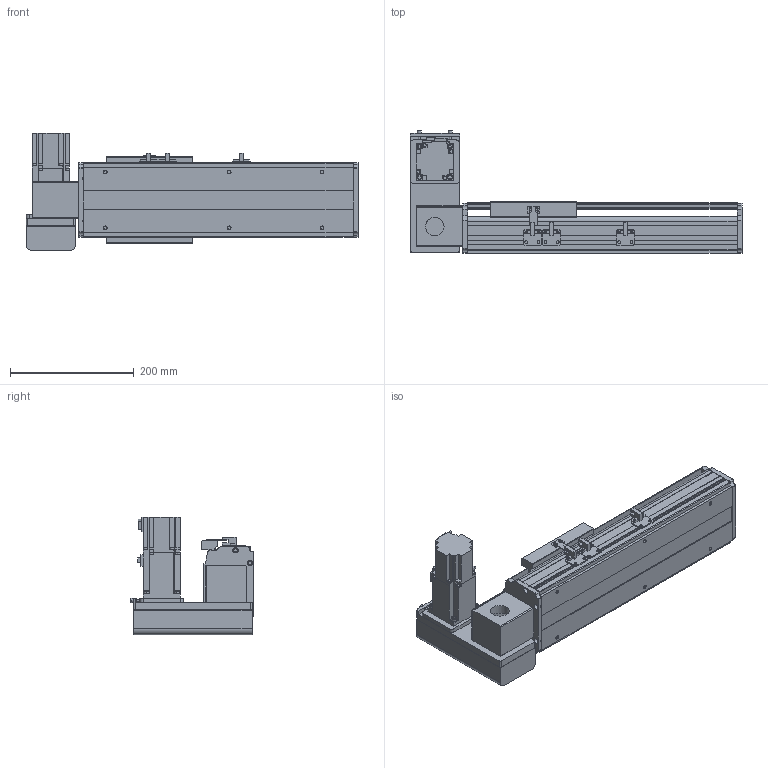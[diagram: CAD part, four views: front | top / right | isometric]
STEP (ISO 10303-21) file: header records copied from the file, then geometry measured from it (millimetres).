
FILE_DESCRIPTION(/* description */ ('STEP AP214'),/* implementation_level */ '2;1');
FILE_NAME(/* name */ 'PBS120-P40-S150-LU-T40-C1-N(0)',/* time_stamp */ '2022-06-06T02:30:02+02:00',/* author */ ('License CC BY-ND 4.0'),/* organization */ ('CADENAS'),/* preprocessor_version */ 'ST-DEVELOPER v18.102',/* originating_system */ 'PARTsolutions',/* authorisation */ ' ');
FILE_SCHEMA (('AUTOMOTIVE_DESIGN {1 0 10303 214 3 1 1}'));
Length unit declared in the file: millimetre
Products named in the file (7): PBS120-P40-S150-LU-T40-C1-N(0); PBS120_sensor; PBS120_plant; PBS120_sliser; T40-p1; PBS120T-LU_motors; PBS120-S150()_body
Assembly tree (8 placements, depth 2):
  PBS120-P40-S150-LU-T40-C1-N(0)
    PBS120_sensor  x3
    PBS120_plant
    PBS120_sliser
    T40-p1
    PBS120T-LU_motors
    PBS120-S150()_body
Bounding box: 536 x 198 x 189.7 mm (x, y, z)
Volume: 3194587.3 mm3; surface area: 553299.2 mm2
Topology: 8 solids, 8 shells, 798 faces, 2106 edges, 1357 vertices
Faces by surface type: plane 539, cylinder 219, cone 38, torus 2
Full cylindrical faces by diameter (mm): 2.459 x6, 3.242 x4, 4 x2, 4.134 x4, 4.5 x10, 4.917 x10, 5.5 x11, 6 x2, 6.6 x1, 7 x2, 8.5 x4, 9 x4, 12 x1, 14 x1, 30 x2, 40 x1, 50 x2
Entity records: 20994 total; most frequent: DIRECTION 3620, CARTESIAN_POINT 3587, ORIENTED_EDGE 3442, EDGE_CURVE 1721, LINE 1228, VECTOR 1228, AXIS2_PLACEMENT_3D 1196, VERTEX_POINT 1163
